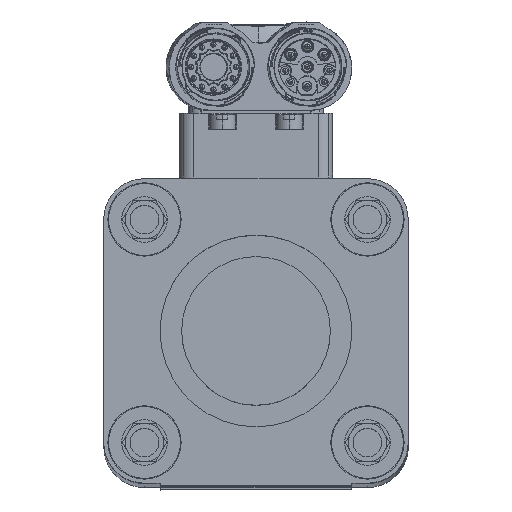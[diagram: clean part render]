
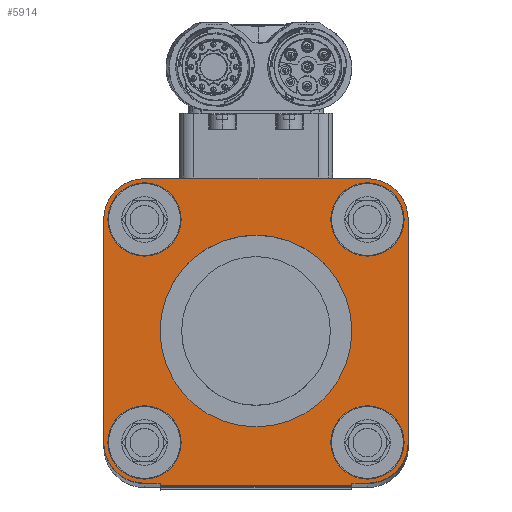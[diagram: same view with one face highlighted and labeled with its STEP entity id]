
A CAD part, left-side view. The second image highlights one B-rep face of the part: STEP entity #5914.
In plain terms, the highlighted planar face has unit normal (-1, 0, 0.002) as drawn and (0, 0, 1) by its records, which use the part's own axes.
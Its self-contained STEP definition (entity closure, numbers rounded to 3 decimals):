
#5914=ADVANCED_FACE('10:20',(#13335,#13336,#13337,#13338,#13339,#13340),#13341,.T.);
#13335=FACE_BOUND('',#21793,.T.);
#13336=FACE_BOUND('',#21794,.T.);
#13337=FACE_BOUND('',#21795,.T.);
#13338=FACE_BOUND('',#21796,.T.);
#13339=FACE_BOUND('',#21797,.T.);
#13340=FACE_OUTER_BOUND('',#21798,.T.);
#13341=PLANE('',#21799);
#21793=EDGE_LOOP('',(#54061,#54062));
#21794=EDGE_LOOP('',(#54063,#54064));
#21795=EDGE_LOOP('',(#54065,#54066));
#21796=EDGE_LOOP('',(#54067,#54068));
#21797=EDGE_LOOP('',(#54069,#54070));
#21798=EDGE_LOOP('',(#54071,#54072,#54073,#54074,#54075,#54076,#54077,#54078,#54079,#54080,#54081,#54082,#54083,#54084,#54085,#54086));
#21799=AXIS2_PLACEMENT_3D('',#54087,#54088,#54089);
#54061=ORIENTED_EDGE('',*,*,#72585,.F.);
#54062=ORIENTED_EDGE('',*,*,#72590,.F.);
#54063=ORIENTED_EDGE('',*,*,#72515,.F.);
#54064=ORIENTED_EDGE('',*,*,#72591,.F.);
#54065=ORIENTED_EDGE('',*,*,#72520,.F.);
#54066=ORIENTED_EDGE('',*,*,#72592,.F.);
#54067=ORIENTED_EDGE('',*,*,#72525,.F.);
#54068=ORIENTED_EDGE('',*,*,#72593,.F.);
#54069=ORIENTED_EDGE('',*,*,#72530,.F.);
#54070=ORIENTED_EDGE('',*,*,#72594,.F.);
#54071=ORIENTED_EDGE('',*,*,#72535,.F.);
#54072=ORIENTED_EDGE('',*,*,#72595,.F.);
#54073=ORIENTED_EDGE('',*,*,#72596,.F.);
#54074=ORIENTED_EDGE('',*,*,#72540,.F.);
#54075=ORIENTED_EDGE('',*,*,#72597,.F.);
#54076=ORIENTED_EDGE('',*,*,#72598,.F.);
#54077=ORIENTED_EDGE('',*,*,#72545,.F.);
#54078=ORIENTED_EDGE('',*,*,#72599,.F.);
#54079=ORIENTED_EDGE('',*,*,#72600,.F.);
#54080=ORIENTED_EDGE('',*,*,#72550,.F.);
#54081=ORIENTED_EDGE('',*,*,#72601,.F.);
#54082=ORIENTED_EDGE('',*,*,#72602,.F.);
#54083=ORIENTED_EDGE('',*,*,#72603,.F.);
#54084=ORIENTED_EDGE('',*,*,#72604,.F.);
#54085=ORIENTED_EDGE('',*,*,#72605,.F.);
#54086=ORIENTED_EDGE('',*,*,#72606,.F.);
#54087=CARTESIAN_POINT('',(0.0,0.0,34.0));
#54088=DIRECTION('',(0.0,0.0,1.0));
#54089=DIRECTION('',(1.0,0.0,0.0));
#72515=EDGE_CURVE('0:1577',#85676,#85672,#85678,.F.);
#72520=EDGE_CURVE('0:1603',#85685,#85681,#85687,.F.);
#72525=EDGE_CURVE('0:1551',#85694,#85690,#85696,.F.);
#72530=EDGE_CURVE('0:1525',#85703,#85699,#85705,.F.);
#72535=EDGE_CURVE('0:1801',#85712,#85708,#85714,.F.);
#72540=EDGE_CURVE('0:1695',#85721,#85717,#85723,.F.);
#72545=EDGE_CURVE('0:1637',#85730,#85726,#85732,.F.);
#72550=EDGE_CURVE('0:1747',#85739,#85735,#85741,.F.);
#72585=EDGE_CURVE('10:253',#85802,#85798,#85804,.T.);
#72590=EDGE_CURVE('',#85798,#85802,#85809,.T.);
#72591=EDGE_CURVE('',#85672,#85676,#85810,.F.);
#72592=EDGE_CURVE('',#85681,#85685,#85811,.F.);
#72593=EDGE_CURVE('',#85690,#85694,#85812,.F.);
#72594=EDGE_CURVE('',#85699,#85703,#85813,.F.);
#72595=EDGE_CURVE('0:863',#85814,#85712,#85815,.F.);
#72596=EDGE_CURVE('',#85717,#85814,#85816,.F.);
#72597=EDGE_CURVE('0:854',#85817,#85721,#85818,.F.);
#72598=EDGE_CURVE('',#85726,#85817,#85819,.F.);
#72599=EDGE_CURVE('0:845',#85820,#85730,#85821,.F.);
#72600=EDGE_CURVE('',#85735,#85820,#85822,.F.);
#72601=EDGE_CURVE('13:44',#85823,#85739,#85824,.F.);
#72602=EDGE_CURVE('13:385',#85825,#85823,#85826,.T.);
#72603=EDGE_CURVE('13:394',#85827,#85825,#85828,.T.);
#72604=EDGE_CURVE('13:400',#85829,#85827,#85830,.T.);
#72605=EDGE_CURVE('13:41',#85831,#85829,#85832,.F.);
#72606=EDGE_CURVE('',#85708,#85831,#85833,.F.);
#85672=VERTEX_POINT('',#108139);
#85676=VERTEX_POINT('',#108144);
#85678=CIRCLE('',#108147,7.65);
#85681=VERTEX_POINT('',#108150);
#85685=VERTEX_POINT('',#108155);
#85687=CIRCLE('',#108158,7.65);
#85690=VERTEX_POINT('',#108161);
#85694=VERTEX_POINT('',#108166);
#85696=CIRCLE('',#108169,7.65);
#85699=VERTEX_POINT('',#108172);
#85703=VERTEX_POINT('',#108177);
#85705=CIRCLE('',#108180,7.65);
#85708=VERTEX_POINT('',#108183);
#85712=VERTEX_POINT('',#108188);
#85714=CIRCLE('',#108191,8.5);
#85717=VERTEX_POINT('',#108194);
#85721=VERTEX_POINT('',#108199);
#85723=CIRCLE('',#108202,8.5);
#85726=VERTEX_POINT('',#108205);
#85730=VERTEX_POINT('',#108210);
#85732=CIRCLE('',#108213,8.5);
#85735=VERTEX_POINT('',#108216);
#85739=VERTEX_POINT('',#108221);
#85741=CIRCLE('',#108224,8.5);
#85798=VERTEX_POINT('',#108293);
#85802=VERTEX_POINT('',#108298);
#85804=CIRCLE('',#108301,20.0);
#85809=CIRCLE('',#108306,20.0);
#85810=CIRCLE('',#108307,7.65);
#85811=CIRCLE('',#108308,7.65);
#85812=CIRCLE('',#108309,7.65);
#85813=CIRCLE('',#108310,7.65);
#85814=VERTEX_POINT('',#108311);
#85815=LINE('',#108312,#108313);
#85816=CIRCLE('',#108314,8.5);
#85817=VERTEX_POINT('',#108315);
#85818=LINE('',#108316,#108317);
#85819=CIRCLE('',#108318,8.5);
#85820=VERTEX_POINT('',#108319);
#85821=LINE('',#108320,#108321);
#85822=CIRCLE('',#108322,8.5);
#85823=VERTEX_POINT('',#108323);
#85824=LINE('',#108324,#108325);
#85825=VERTEX_POINT('',#108326);
#85826=LINE('',#108327,#108328);
#85827=VERTEX_POINT('',#108329);
#85828=LINE('',#108330,#108331);
#85829=VERTEX_POINT('',#108332);
#85830=LINE('',#108333,#108334);
#85831=VERTEX_POINT('',#108335);
#85832=LINE('',#108336,#108337);
#85833=CIRCLE('',#108338,8.5);
#108139=CARTESIAN_POINT('',(46.709,-36.636,34.0));
#108144=CARTESIAN_POINT('',(31.409,-36.636,34.0));
#108147=AXIS2_PLACEMENT_3D('',#149250,#149251,#149252);
#108150=CARTESIAN_POINT('',(0.209,-36.636,34.0));
#108155=CARTESIAN_POINT('',(-15.091,-36.636,34.0));
#108158=AXIS2_PLACEMENT_3D('',#149258,#149259,#149260);
#108161=CARTESIAN_POINT('',(46.709,9.864,34.0));
#108166=CARTESIAN_POINT('',(31.409,9.864,34.0));
#108169=AXIS2_PLACEMENT_3D('',#149266,#149267,#149268);
#108172=CARTESIAN_POINT('',(0.209,9.864,34.0));
#108177=CARTESIAN_POINT('',(-15.091,9.864,34.0));
#108180=AXIS2_PLACEMENT_3D('',#149274,#149275,#149276);
#108183=CARTESIAN_POINT('',(45.069,-42.647,34.0));
#108188=CARTESIAN_POINT('',(47.559,-36.636,34.0));
#108191=AXIS2_PLACEMENT_3D('',#149282,#149283,#149284);
#108194=CARTESIAN_POINT('',(45.069,15.874,34.0));
#108199=CARTESIAN_POINT('',(39.059,18.364,34.0));
#108202=AXIS2_PLACEMENT_3D('',#149290,#149291,#149292);
#108205=CARTESIAN_POINT('',(-13.451,15.874,34.0));
#108210=CARTESIAN_POINT('',(-15.941,9.864,34.0));
#108213=AXIS2_PLACEMENT_3D('',#149298,#149299,#149300);
#108216=CARTESIAN_POINT('',(-13.451,-42.647,34.0));
#108221=CARTESIAN_POINT('',(-7.441,-45.136,34.0));
#108224=AXIS2_PLACEMENT_3D('',#149306,#149307,#149308);
#108293=CARTESIAN_POINT('',(35.809,-13.386,34.0));
#108298=CARTESIAN_POINT('',(-4.191,-13.386,34.0));
#108301=AXIS2_PLACEMENT_3D('',#149362,#149363,#149364);
#108306=AXIS2_PLACEMENT_3D('',#149371,#149372,#149373);
#108307=AXIS2_PLACEMENT_3D('',#149374,#149375,#149376);
#108308=AXIS2_PLACEMENT_3D('',#149377,#149378,#149379);
#108309=AXIS2_PLACEMENT_3D('',#149380,#149381,#149382);
#108310=AXIS2_PLACEMENT_3D('',#149383,#149384,#149385);
#108311=CARTESIAN_POINT('',(47.559,9.864,34.0));
#108312=CARTESIAN_POINT('',(47.559,-6.693,34.0));
#108313=VECTOR('',#149386,1.0);
#108314=AXIS2_PLACEMENT_3D('',#149387,#149388,#149389);
#108315=CARTESIAN_POINT('',(-7.441,18.364,34.0));
#108316=CARTESIAN_POINT('',(7.904,18.364,34.0));
#108317=VECTOR('',#149390,1.0);
#108318=AXIS2_PLACEMENT_3D('',#149391,#149392,#149393);
#108319=CARTESIAN_POINT('',(-15.941,-36.636,34.0));
#108320=CARTESIAN_POINT('',(-15.941,-6.693,34.0));
#108321=VECTOR('',#149394,1.0);
#108322=AXIS2_PLACEMENT_3D('',#149395,#149396,#149397);
#108323=CARTESIAN_POINT('',(-4.191,-45.136,34.0));
#108324=CARTESIAN_POINT('',(7.904,-45.136,34.0));
#108325=VECTOR('',#149398,1.0);
#108326=CARTESIAN_POINT('',(-4.191,-45.636,34.0));
#108327=CARTESIAN_POINT('',(-4.191,-45.636,34.0));
#108328=VECTOR('',#149399,1.0);
#108329=CARTESIAN_POINT('',(35.809,-45.636,34.0));
#108330=CARTESIAN_POINT('',(35.809,-45.636,34.0));
#108331=VECTOR('',#149400,1.0);
#108332=CARTESIAN_POINT('',(35.809,-45.136,34.0));
#108333=CARTESIAN_POINT('',(35.809,-45.136,34.0));
#108334=VECTOR('',#149401,1.0);
#108335=CARTESIAN_POINT('',(39.059,-45.136,34.0));
#108336=CARTESIAN_POINT('',(7.904,-45.136,34.0));
#108337=VECTOR('',#149402,1.0);
#108338=AXIS2_PLACEMENT_3D('',#149403,#149404,#149405);
#149250=CARTESIAN_POINT('',(39.059,-36.636,34.0));
#149251=DIRECTION('',(0.0,0.0,-1.0));
#149252=DIRECTION('',(1.0,0.0,0.0));
#149258=CARTESIAN_POINT('',(-7.441,-36.636,34.0));
#149259=DIRECTION('',(0.0,0.0,-1.0));
#149260=DIRECTION('',(1.0,0.0,0.0));
#149266=CARTESIAN_POINT('',(39.059,9.864,34.0));
#149267=DIRECTION('',(0.0,0.0,-1.0));
#149268=DIRECTION('',(1.0,0.0,0.0));
#149274=CARTESIAN_POINT('',(-7.441,9.864,34.0));
#149275=DIRECTION('',(0.0,0.0,-1.0));
#149276=DIRECTION('',(1.0,0.0,0.0));
#149282=CARTESIAN_POINT('',(39.059,-36.636,34.0));
#149283=DIRECTION('',(0.0,0.0,1.0));
#149284=DIRECTION('',(0.707,-0.707,0.0));
#149290=CARTESIAN_POINT('',(39.059,9.864,34.0));
#149291=DIRECTION('',(0.0,-0.0,1.0));
#149292=DIRECTION('',(0.707,0.707,0.0));
#149298=CARTESIAN_POINT('',(-7.441,9.864,34.0));
#149299=DIRECTION('',(0.0,0.0,1.0));
#149300=DIRECTION('',(-0.707,0.707,0.0));
#149306=CARTESIAN_POINT('',(-7.441,-36.636,34.0));
#149307=DIRECTION('',(0.0,0.0,1.0));
#149308=DIRECTION('',(-0.707,-0.707,0.0));
#149362=CARTESIAN_POINT('',(15.809,-13.386,34.0));
#149363=DIRECTION('',(0.0,0.0,1.0));
#149364=DIRECTION('',(1.0,0.0,-0.0));
#149371=CARTESIAN_POINT('',(15.809,-13.386,34.0));
#149372=DIRECTION('',(0.0,0.0,1.0));
#149373=DIRECTION('',(1.0,0.0,-0.0));
#149374=CARTESIAN_POINT('',(39.059,-36.636,34.0));
#149375=DIRECTION('',(0.0,0.0,-1.0));
#149376=DIRECTION('',(1.0,0.0,0.0));
#149377=CARTESIAN_POINT('',(-7.441,-36.636,34.0));
#149378=DIRECTION('',(0.0,0.0,-1.0));
#149379=DIRECTION('',(1.0,0.0,0.0));
#149380=CARTESIAN_POINT('',(39.059,9.864,34.0));
#149381=DIRECTION('',(0.0,0.0,-1.0));
#149382=DIRECTION('',(1.0,0.0,0.0));
#149383=CARTESIAN_POINT('',(-7.441,9.864,34.0));
#149384=DIRECTION('',(0.0,0.0,-1.0));
#149385=DIRECTION('',(1.0,0.0,0.0));
#149386=DIRECTION('',(-0.0,1.0,0.0));
#149387=CARTESIAN_POINT('',(39.059,9.864,34.0));
#149388=DIRECTION('',(0.0,-0.0,1.0));
#149389=DIRECTION('',(0.707,0.707,0.0));
#149390=DIRECTION('',(-1.0,0.0,0.0));
#149391=CARTESIAN_POINT('',(-7.441,9.864,34.0));
#149392=DIRECTION('',(0.0,0.0,1.0));
#149393=DIRECTION('',(-0.707,0.707,0.0));
#149394=DIRECTION('',(0.0,-1.0,0.0));
#149395=CARTESIAN_POINT('',(-7.441,-36.636,34.0));
#149396=DIRECTION('',(0.0,0.0,1.0));
#149397=DIRECTION('',(-0.707,-0.707,0.0));
#149398=DIRECTION('',(1.0,0.0,-0.0));
#149399=DIRECTION('',(0.0,1.0,0.0));
#149400=DIRECTION('',(-1.0,0.0,0.0));
#149401=DIRECTION('',(0.0,-1.0,0.0));
#149402=DIRECTION('',(1.0,0.0,-0.0));
#149403=CARTESIAN_POINT('',(39.059,-36.636,34.0));
#149404=DIRECTION('',(0.0,0.0,1.0));
#149405=DIRECTION('',(0.707,-0.707,0.0));
